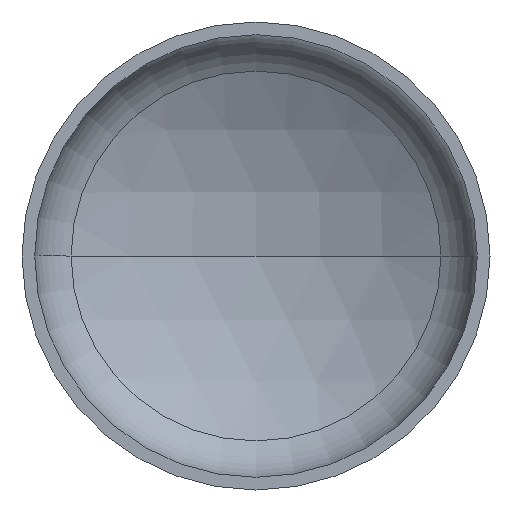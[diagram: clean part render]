
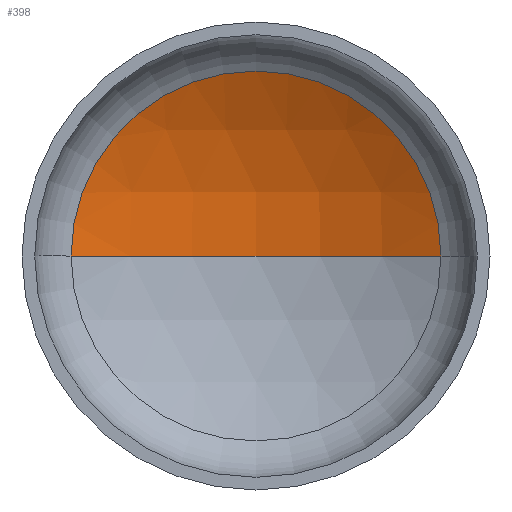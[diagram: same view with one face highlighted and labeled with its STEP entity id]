
A CAD part, front view. The second image highlights one B-rep face of the part: STEP entity #398.
In plain terms, the highlighted spherical face has radius 2240 mm.
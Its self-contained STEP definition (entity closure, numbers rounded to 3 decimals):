
#8 = CARTESIAN_POINT ( 'NONE',  ( 1106.387, 493.888, 0. ) ) ;
#14 = EDGE_LOOP ( 'NONE', ( #126, #89, #70 ) ) ;
#21 = AXIS2_PLACEMENT_3D ( 'NONE', #322, #176, #330 ) ;
#25 = AXIS2_PLACEMENT_3D ( 'NONE', #216, #383, #334 ) ;
#70 = ORIENTED_EDGE ( 'NONE', *, *, #337, .T. ) ;
#89 = ORIENTED_EDGE ( 'NONE', *, *, #348, .T. ) ;
#103 = CARTESIAN_POINT ( 'NONE',  ( 0., -1453.806, 0. ) ) ;
#120 = VERTEX_POINT ( 'NONE', #206 ) ;
#126 = ORIENTED_EDGE ( 'NONE', *, *, #391, .F. ) ;
#146 = VERTEX_POINT ( 'NONE', #201 ) ;
#162 = FACE_OUTER_BOUND ( 'NONE', #14, .T. ) ;
#176 = DIRECTION ( 'NONE',  ( 0., 0., -1. ) ) ;
#178 = VERTEX_POINT ( 'NONE', #8 ) ;
#180 = CIRCLE ( 'NONE', #21, 2240. ) ;
#201 = CARTESIAN_POINT ( 'NONE',  ( -1106.387, 493.888, 0. ) ) ;
#206 = CARTESIAN_POINT ( 'NONE',  ( 0., 786.194, 0. ) ) ;
#216 = CARTESIAN_POINT ( 'NONE',  ( 0., 493.888, 0. ) ) ;
#217 = DIRECTION ( 'NONE',  ( -1., 0., 0. ) ) ;
#220 = DIRECTION ( 'NONE',  ( 0., 0., -1. ) ) ;
#250 = DIRECTION ( 'NONE',  ( 1., 0., 0. ) ) ;
#258 = AXIS2_PLACEMENT_3D ( 'NONE', #103, #384, #250 ) ;
#277 = SPHERICAL_SURFACE ( 'NONE', #307, 2240. ) ;
#307 = AXIS2_PLACEMENT_3D ( 'NONE', #405, #220, #217 ) ;
#322 = CARTESIAN_POINT ( 'NONE',  ( 0., -1453.806, 0. ) ) ;
#330 = DIRECTION ( 'NONE',  ( -1., 0., 0. ) ) ;
#334 = DIRECTION ( 'NONE',  ( 1., 0., 0. ) ) ;
#337 = EDGE_CURVE ( 'NONE', #178, #146, #369, .T. ) ;
#348 = EDGE_CURVE ( 'NONE', #120, #178, #180, .T. ) ;
#369 = CIRCLE ( 'NONE', #25, 1106.387 ) ;
#383 = DIRECTION ( 'NONE',  ( 0., -1., 0. ) ) ;
#384 = DIRECTION ( 'NONE',  ( 0., 0., 1. ) ) ;
#391 = EDGE_CURVE ( 'NONE', #120, #146, #403, .T. ) ;
#398 = ADVANCED_FACE ( 'NONE', ( #162 ), #277, .F. ) ;
#403 = CIRCLE ( 'NONE', #258, 2240. ) ;
#405 = CARTESIAN_POINT ( 'NONE',  ( 0., -1453.806, 0. ) ) ;
